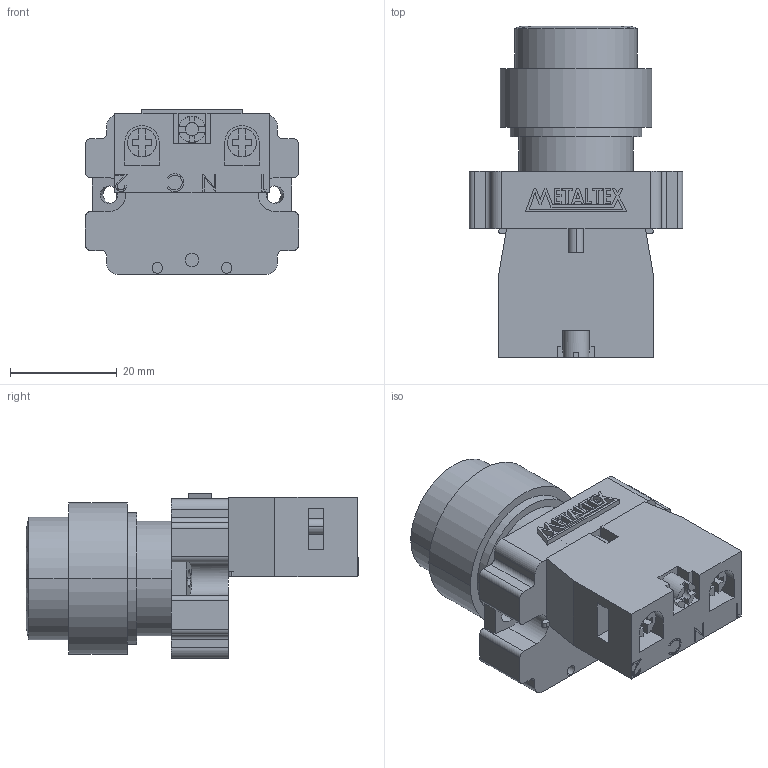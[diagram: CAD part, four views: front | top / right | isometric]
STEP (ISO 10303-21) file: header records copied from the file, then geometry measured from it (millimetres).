
FILE_DESCRIPTION (( 'STEP AP203' ), '1' );
FILE_NAME ('M20ARR-R-1B.STEP', '2019-01-25T16:54:08', ( '' ), ( '' ), 'SwSTEP 2.0', 'SolidWorks 2012', '' );
FILE_SCHEMA (( 'CONFIG_CONTROL_DESIGN' ));
Length unit declared in the file: millimetre
Products named in the file (4): M20ARR-R; M20-1B; METALTEX 18,98; M20ARR-R-1B
Assembly tree (3 placements, depth 2):
  M20ARR-R-1B
    M20ARR-R
    M20-1B
    METALTEX 18,98
Bounding box: 40 x 62.27 x 30.9 mm (x, y, z)
Volume: 33906 mm3; surface area: 11709.8 mm2
Topology: 9 solids, 9 shells, 343 faces, 897 edges, 595 vertices
Faces by surface type: plane 253, cylinder 69, bspline 17, torus 4
Entity records: 11847 total; most frequent: CARTESIAN_POINT 2944, ORIENTED_EDGE 1790, DIRECTION 1687, EDGE_CURVE 895, LINE 687, VECTOR 687, VERTEX_POINT 595, AXIS2_PLACEMENT_3D 500
